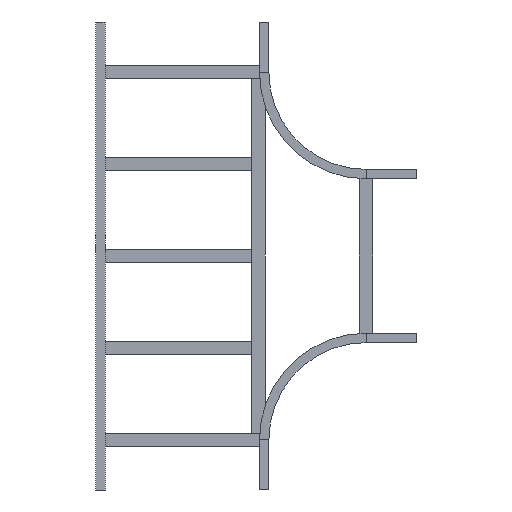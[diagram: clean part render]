
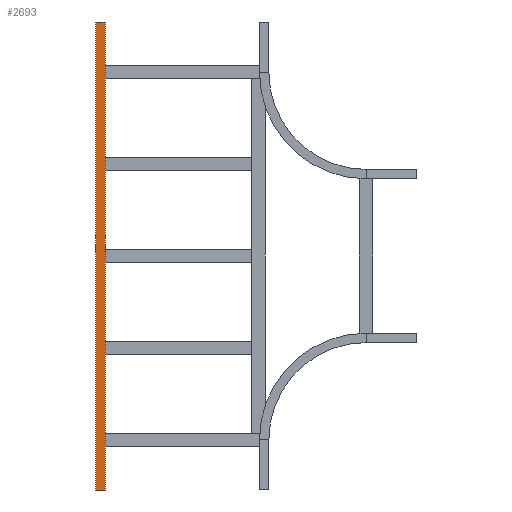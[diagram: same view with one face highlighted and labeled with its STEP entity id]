
A CAD part, front view. The second image highlights one B-rep face of the part: STEP entity #2693.
In plain terms, the highlighted planar face has unit normal (0, -1, 0).
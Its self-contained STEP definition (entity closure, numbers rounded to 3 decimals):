
#30 = FACE_OUTER_BOUND ( 'NONE', #2935, .T. ) ;
#53 = VERTEX_POINT ( 'NONE', #2551 ) ;
#94 = EDGE_CURVE ( 'NONE', #1786, #1055, #2383, .T. ) ;
#140 = CARTESIAN_POINT ( 'NONE',  ( 28., 0., -1400. ) ) ;
#336 = DIRECTION ( 'NONE',  ( 0., 0., 1. ) ) ;
#415 = CARTESIAN_POINT ( 'NONE',  ( 0., 0., -1400. ) ) ;
#517 = EDGE_CURVE ( 'NONE', #2246, #53, #1825, .T. ) ;
#568 = CARTESIAN_POINT ( 'NONE',  ( 0., 0., -1400. ) ) ;
#643 = VECTOR ( 'NONE', #1799, 1000. ) ;
#1025 = DIRECTION ( 'NONE',  ( 0., -1., 0. ) ) ;
#1055 = VERTEX_POINT ( 'NONE', #3209 ) ;
#1073 = CARTESIAN_POINT ( 'NONE',  ( 28., 0., -1400. ) ) ;
#1128 = DIRECTION ( 'NONE',  ( 0., 0., 1. ) ) ;
#1211 = ORIENTED_EDGE ( 'NONE', *, *, #3234, .F. ) ;
#1296 = DIRECTION ( 'NONE',  ( 1., 0., 0. ) ) ;
#1786 = VERTEX_POINT ( 'NONE', #140 ) ;
#1799 = DIRECTION ( 'NONE',  ( 1., 0., 0. ) ) ;
#1825 = LINE ( 'NONE', #568, #1880 ) ;
#1880 = VECTOR ( 'NONE', #336, 1000. ) ;
#1920 = ORIENTED_EDGE ( 'NONE', *, *, #517, .F. ) ;
#2047 = CARTESIAN_POINT ( 'NONE',  ( 28., 0., -1400. ) ) ;
#2048 = AXIS2_PLACEMENT_3D ( 'NONE', #2047, #1025, #1296 ) ;
#2061 = LINE ( 'NONE', #2583, #643 ) ;
#2246 = VERTEX_POINT ( 'NONE', #415 ) ;
#2310 = VECTOR ( 'NONE', #1128, 1000. ) ;
#2327 = CARTESIAN_POINT ( 'NONE',  ( 28., 0., 0. ) ) ;
#2333 = PLANE ( 'NONE',  #2048 ) ;
#2349 = EDGE_CURVE ( 'NONE', #2246, #1786, #2061, .T. ) ;
#2357 = ORIENTED_EDGE ( 'NONE', *, *, #94, .T. ) ;
#2383 = LINE ( 'NONE', #1073, #2310 ) ;
#2551 = CARTESIAN_POINT ( 'NONE',  ( 0., 0., 0. ) ) ;
#2583 = CARTESIAN_POINT ( 'NONE',  ( 28., 0., -1400. ) ) ;
#2693 = ADVANCED_FACE ( 'NONE', ( #30 ), #2333, .T. ) ;
#2748 = ORIENTED_EDGE ( 'NONE', *, *, #2349, .T. ) ;
#2843 = LINE ( 'NONE', #2327, #3039 ) ;
#2861 = DIRECTION ( 'NONE',  ( 1., 0., 0. ) ) ;
#2935 = EDGE_LOOP ( 'NONE', ( #1211, #1920, #2748, #2357 ) ) ;
#3039 = VECTOR ( 'NONE', #2861, 1000. ) ;
#3209 = CARTESIAN_POINT ( 'NONE',  ( 28., 0., 0. ) ) ;
#3234 = EDGE_CURVE ( 'NONE', #53, #1055, #2843, .T. ) ;
